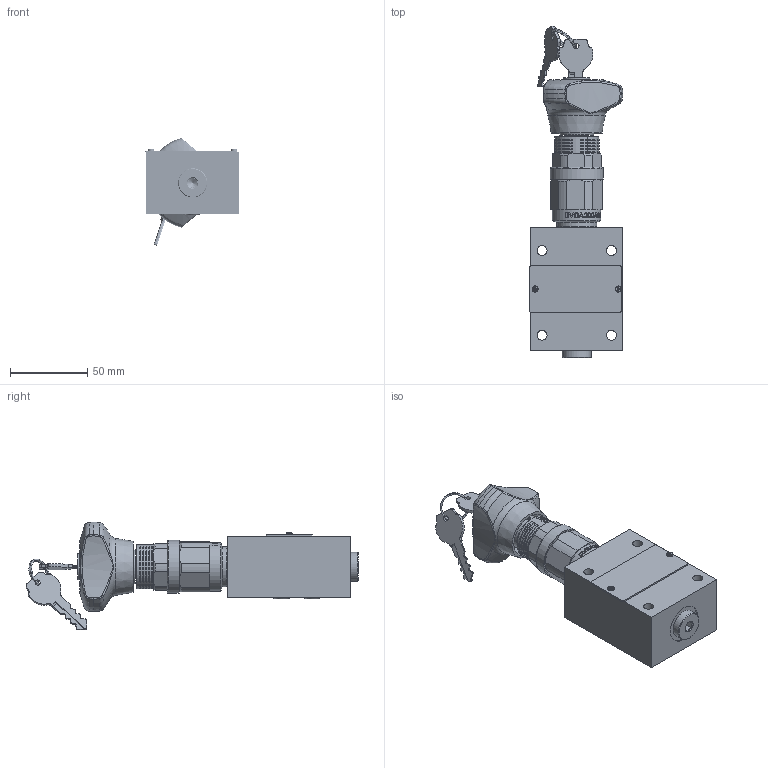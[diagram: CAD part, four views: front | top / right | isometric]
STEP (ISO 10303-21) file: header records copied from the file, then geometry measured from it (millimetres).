
FILE_DESCRIPTION(/* description */ (''),/* implementation_level */ '2;1');
FILE_NAME(/* name */ 'DBDA6P-1XJ.stp',/* time_stamp */ '2025-03-03T09:55:53+08:00',/* author */ (''),/* organization */ (''),/* preprocessor_version */ 'ST-DEVELOPER v16.7',/* originating_system */ 'SIEMENS PLM Software NX 12.0',/* authorisation */ '');
FILE_SCHEMA (('AUTOMOTIVE_DESIGN { 1 0 10303 214 3 1 1 1 }'));
Products named in the file (1): DBDA6P-1XJ
Bounding box: 60.9 x 215.48 x 69.93 mm (x, y, z)
Volume: 100688 mm3; surface area: 101438.2 mm2
Topology: 35 solids, 36 shells, 1788 faces, 4649 edges, 2994 vertices
Faces by surface type: cylinder 626, plane 617, bspline 244, torus 151, cone 138, extrusion 8, sphere 4
Full cylindrical faces by diameter (mm): 1 x3, 1.5 x2, 1.8 x2, 1.9 x2, 2 x3, 2.5 x2, 3 x5, 3.1 x2, 3.3 x1, 4 x2, 4.4 x2, 4.7 x4, 4.709 x1, 5.1 x4, 5.2 x1, 5.209 x1, 5.4 x2, 5.5 x1, 6 x3, 6.5 x4, 6.8 x1, 7.8 x2, 10 x5, 10.25 x1, 11 x2, 11.093 x1, 11.1 x1, 12.4 x1, 13.4 x1, 14.3 x1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
Entity records: 91211 total; most frequent: CARTESIAN_POINT 51144, ORIENTED_EDGE 8546, DIRECTION 7522, EDGE_CURVE 4273, AXIS2_PLACEMENT_3D 3024, VERTEX_POINT 2916, EDGE_LOOP 2196, ADVANCED_FACE 1781
